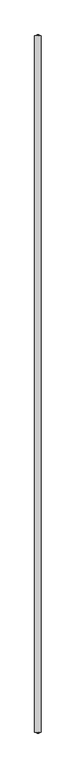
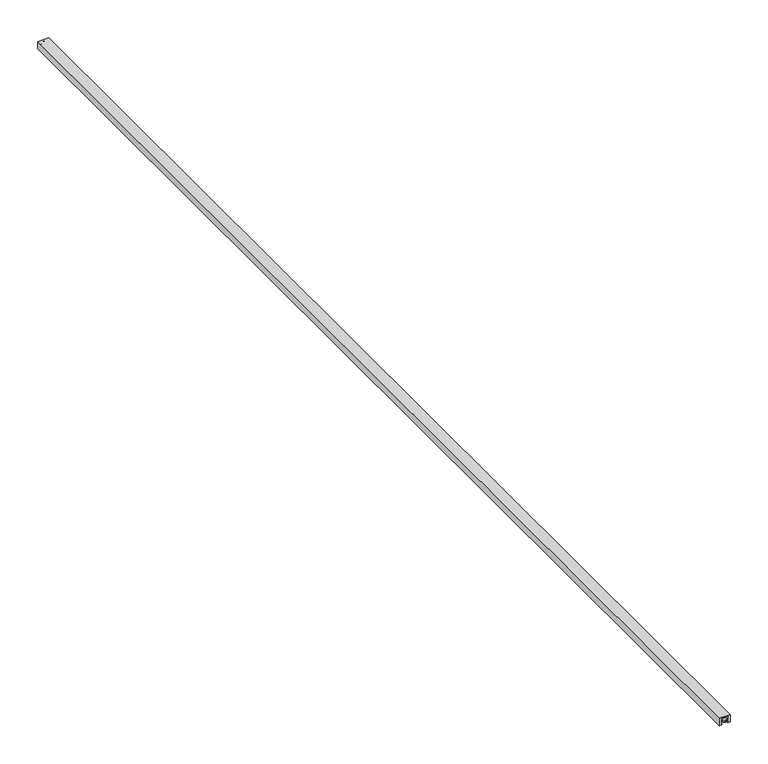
"""IFC4 building model written with IfcOpenShell, lengths in millimetres: proxy geometry, HAFELE^BUS BAR LIGHT_ALUMINUM EXTRUSION-LIGHT BAR (MOD LENGTH 71.875)."""

from ifc_helpers import new_model, si_unit, point, frame, origin, place, context, project, spatial, polyline, circle_curve, ellipse_curve, trimmed, outline, extrude, source, transform, mapped, element, save
from ifc_brep_helpers import plane_surface, revolved_surface, advanced_brep


def generic_models_7e0e9335(model_context):
    return source(origin(), model_context, "Body", "SolidModel", [
        extrude(outline(polyline([(13.9, 1787.525), (13.9, 38.1), (3.1, 38.1), (3.1, 1787.525), (13.9, 1787.525)])), frame((0.0, 0.0, -0.05), z_axis=(0.0, 0.0, 1.0), x_axis=(1.0, 0.0, 0.0)), (0.0, 0.0, 1.0), 1.05),
        advanced_brep(
        [(12.0, 1825.625, 6.0), (10.0430013, 1827.2125, 6.0), (6.9569987, 1827.2125, 6.0), (5.0, 1825.625, 6.0)],
        [
            (0, 1, circle_curve(frame((10.0430013, 1825.2125, 6.0), z_axis=(0.0, 0.0, 1.0), x_axis=(1.0, 0.0, 0.0)), 2.0)),
            (1, 2, circle_curve(frame((8.5, 1827.2125, 6.0), z_axis=(0.0, -1.0, 0.0), x_axis=(1.0, 0.0, 0.0)), 1.5430013)),
            (2, 3, circle_curve(frame((6.9569987, 1825.2125, 6.0), z_axis=(0.0, 0.0, 1.0), x_axis=(-1.0, 0.0, 0.0)), 2.0)),
            (3, 0, circle_curve(frame((8.5, 1825.625, 6.0), z_axis=(0.0, 1.0, 0.0), x_axis=(1.0, 0.0, 0.0)), 3.5)),
            (0, 3, circle_curve(frame((8.5, 1825.625, 6.0), z_axis=(0.0, 1.0, 0.0), x_axis=(-1.0, 0.0, 0.0)), 3.5)),
            (2, 1, circle_curve(frame((8.5, 1827.2125, 6.0), z_axis=(0.0, -1.0, 0.0), x_axis=(-1.0, 0.0, 0.0)), 1.5430013)),
        ],
        [
            revolved_surface(trimmed(ellipse_curve(frame((10.0430013, 1825.2125, 6.0), z_axis=(0.0, 0.0, -1.0), x_axis=(1.0, 0.0, 0.0)), 2.0, 2.0), [point((10.0430013, 1827.2125, 6.0))], [point((12.0, 1825.625, 6.0))], True, "CARTESIAN"), (8.5, 1825.2125, 6.0), (0.0, -1.0, 0.0)),
            revolved_surface(trimmed(ellipse_curve(frame((6.9569987, 1825.2125, 6.0), z_axis=(0.0, 0.0, 1.0), x_axis=(-1.0, 0.0, 0.0)), 2.0, 2.0), [point((6.9569987, 1827.2125, 6.0))], [point((5.0, 1825.625, 6.0))], True, "CARTESIAN"), (8.5, 1825.2125, 6.0), (0.0, -1.0, 0.0)),
            plane_surface(frame((8.5, 1827.2125, 6.0), z_axis=(0.0, 1.0, 0.0), x_axis=(0.0, 0.0, 1.0))),
            plane_surface(frame((8.5, 1825.625, 6.0), z_axis=(0.0, -1.0, 0.0), x_axis=(0.0, 0.0, 1.0))),
        ],
        [
            (0, [[1, 2, 3, 4]]),
            (1, [[-1, 5, -3, 6]]),
            (2, [[-6, -2]]),
            (3, [[-4, -5]]),
        ],
    ),
        advanced_brep(
        [(12.0, 0.0, 6.0), (10.0430013, -1.5875, 6.0), (6.9569987, -1.5875, 6.0), (5.0, 0.0, 6.0)],
        [
            (0, 1, circle_curve(frame((10.0430013, 0.4125, 6.0), z_axis=(0.0, 0.0, -1.0), x_axis=(1.0, 0.0, 0.0)), 2.0)),
            (1, 2, circle_curve(frame((8.5, -1.5875, 6.0), z_axis=(0.0, 1.0, 0.0), x_axis=(1.0, 0.0, 0.0)), 1.5430013)),
            (2, 3, circle_curve(frame((6.9569987, 0.4125, 6.0), z_axis=(0.0, 0.0, -1.0), x_axis=(-1.0, 0.0, 0.0)), 2.0)),
            (3, 0, circle_curve(frame((8.5, 0.0, 6.0), z_axis=(0.0, -1.0, 0.0), x_axis=(1.0, 0.0, 0.0)), 3.5)),
            (0, 3, circle_curve(frame((8.5, 0.0, 6.0), z_axis=(0.0, -1.0, 0.0), x_axis=(-1.0, 0.0, 0.0)), 3.5)),
            (2, 1, circle_curve(frame((8.5, -1.5875, 6.0), z_axis=(0.0, 1.0, 0.0), x_axis=(-1.0, 0.0, 0.0)), 1.5430013)),
        ],
        [
            revolved_surface(trimmed(ellipse_curve(frame((10.0430013, 0.4125, 6.0), z_axis=(0.0, 0.0, 1.0), x_axis=(1.0, 0.0, 0.0)), 2.0, 2.0), [point((10.0430013, -1.5875, 6.0))], [point((12.0, 0.0, 6.0))], True, "CARTESIAN"), (8.5, 0.4125, 6.0), (0.0, 1.0, 0.0)),
            revolved_surface(trimmed(ellipse_curve(frame((6.9569987, 0.4125, 6.0), z_axis=(0.0, 0.0, -1.0), x_axis=(-1.0, 0.0, 0.0)), 2.0, 2.0), [point((6.9569987, -1.5875, 6.0))], [point((5.0, 0.0, 6.0))], True, "CARTESIAN"), (8.5, 0.4125, 6.0), (0.0, 1.0, 0.0)),
            plane_surface(frame((8.5, -1.5875, 6.0), z_axis=(0.0, -1.0, 0.0), x_axis=(0.0, 0.0, -1.0))),
            plane_surface(frame((8.5, 0.0, 6.0), z_axis=(0.0, 1.0, 0.0), x_axis=(0.0, 0.0, -1.0))),
        ],
        [
            (0, [[1, 2, 3, 4]]),
            (1, [[-1, 5, -3, 6]]),
            (2, [[-6, -2]]),
            (3, [[-4, -5]]),
        ],
    ),
        extrude(outline(polyline([(0.0, 13.0), (0.0, 17.0), (12.0, 17.0), (12.0, 0.0), (0.0, 0.0), (0.0, 4.0), (2.0, 4.0), (2.0, 3.0), (11.0, 3.0), (11.0, 14.0), (2.0, 14.0), (2.0, 13.0), (0.0, 13.0)])), frame((0.0, 0.0, 0.0), z_axis=(0.0, 1.0, 0.0), x_axis=(0.0, 0.0, 1.0)), (0.0, 0.0, 1.0), 1825.625),
    ])


if __name__ == "__main__":
    model = new_model("IFC4")
    model_context = context("Model", 3, world=origin())
    ifc_project = project(units=[si_unit("LENGTHUNIT", "METRE", prefix="MILLI")], contexts=[model_context])
    site = spatial("IfcSite", under=ifc_project)
    building = spatial("IfcBuilding", under=site)
    placement = place(None, origin())
    generic_models_shape = generic_models_7e0e9335(model_context)
    element("IfcBuildingElementProxy", 1, Name="HAFELE^BUS BAR LIGHT_ALUMINUM EXTRUSION-LIGHT BAR (MOD LENGTH 71.875)", ObjectType="HAFELE^BUS BAR LIGHT_ALUMINUM EXTRUSION-LIGHT BAR (MOD LENGTH 71.875)", at=placement, inside=building, context=model_context, shape_type="MappedRepresentation", body=[
        mapped(generic_models_shape, transform((0.0, 0.0, 0.0), x_axis=(1.0, 0.0, 0.0), y_axis=(0.0, 1.0, 0.0), z_axis=(0.0, 0.0, 1.0))),
    ])
    save(model, "model.ifc")
